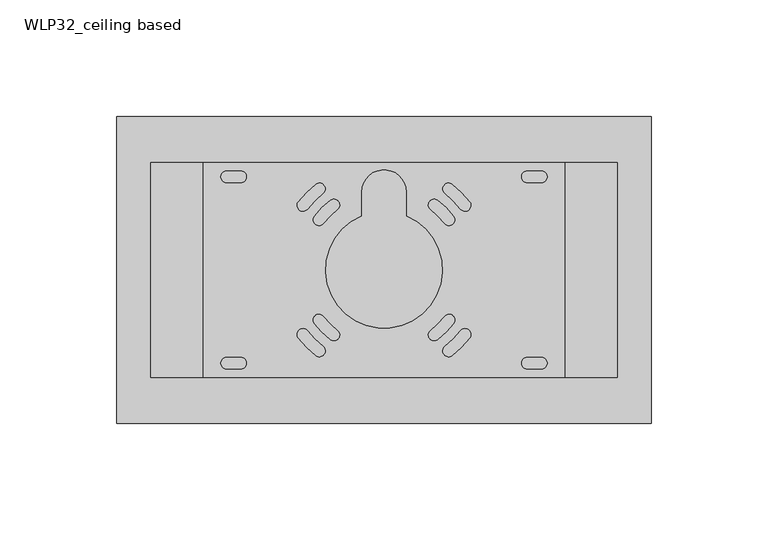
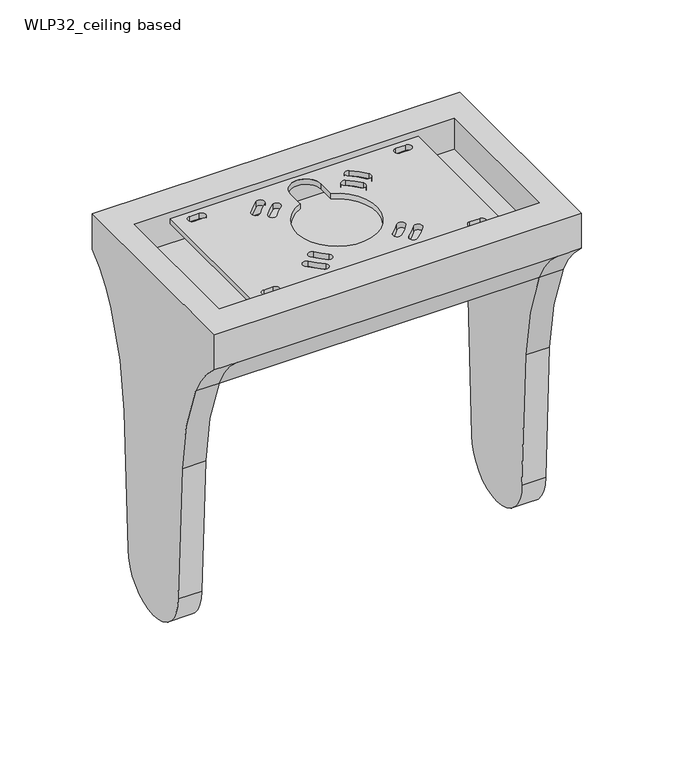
"""IFC4 building model written with IfcOpenShell, lengths in millimetres: light fixture geometry, WLP32_ceiling based : WLP32-80W-T40."""

from ifc_helpers import new_model, si_unit, point, frame, frame_2d, origin, origin_2d, place, context, project, spatial, polyline, circle_curve, trimmed, segment, composite_curve, outline, extrude, source, transform, mapped, element, save
from ifc_brep_helpers import plane_surface, cylinder_surface, revolved_surface, advanced_brep


def wlp32_ceiling_based_78ae828d(model_context):
    return source(origin(), model_context, "Body", "SolidModel", [
        extrude(outline(polyline([(-77.4999981, -46.0837738), (-77.4999981, 46.0837738), (77.4999252, 46.0837738), (77.4999252, -46.0837738), (-77.4999981, -46.0837738)]), holes=[composite_curve([segment(trimmed(circle_curve(origin_2d(), 25.0000305), [point((-9.5000019, 23.1246944))], [point((9.5000019, 23.1246944))], True, "CARTESIAN"), True, "CONTINUOUS"), segment(polyline([(9.5000019, 23.1246944), (9.5000019, 33.4999695)]), True, "CONTINUOUS"), segment(trimmed(circle_curve(frame_2d((0.0, 33.4999695)), 9.5000019), [point((9.5000019, 33.4999695))], [point((-9.5000019, 33.4999695))], True, "CARTESIAN"), True, "CONTINUOUS"), segment(polyline([(-9.5000019, 33.4999695), (-9.5000019, 23.1246944)]), True, "CONTINUOUS")], self_intersect=False), composite_curve([segment(polyline([(67.5000019, -37.5417709), (61.4419666, -37.5417709)]), True, "CONTINUOUS"), segment(trimmed(circle_curve(frame_2d((61.4419666, -40.0208969)), 2.479126), [point((61.4419666, -37.5417709))], [point((61.4419666, -42.5000229))], True, "CARTESIAN"), True, "CONTINUOUS"), segment(polyline([(61.4419666, -42.5000229), (67.5000019, -42.5000229)]), True, "CONTINUOUS"), segment(trimmed(circle_curve(frame_2d((67.5000019, -40.0208969)), 2.479126), [point((67.5000019, -42.5000229))], [point((67.5000019, -37.5417709))], True, "CARTESIAN"), True, "CONTINUOUS")], self_intersect=False), composite_curve([segment(trimmed(circle_curve(frame_2d((67.5000019, 40.0208969)), 2.479126), [point((67.5000019, 37.5417709))], [point((67.5000019, 42.5000229))], True, "CARTESIAN"), True, "CONTINUOUS"), segment(polyline([(67.5000019, 42.5000229), (61.4419666, 42.5000229)]), True, "CONTINUOUS"), segment(trimmed(circle_curve(frame_2d((61.4419666, 40.0208969)), 2.479126), [point((61.4419666, 42.5000229))], [point((61.4419666, 37.5417709))], True, "CARTESIAN"), True, "CONTINUOUS"), segment(polyline([(61.4419666, 37.5417709), (67.5000019, 37.5417709)]), True, "CONTINUOUS")], self_intersect=False), composite_curve([segment(trimmed(circle_curve(frame_2d((-67.5000019, -40.0208969)), 2.479126), [point((-67.5000019, -37.5417709))], [point((-67.5000019, -42.5000229))], True, "CARTESIAN"), True, "CONTINUOUS"), segment(polyline([(-67.5000019, -42.5000229), (-61.4419666, -42.5000229)]), True, "CONTINUOUS"), segment(trimmed(circle_curve(frame_2d((-61.4419666, -40.0208969)), 2.479126), [point((-61.4419666, -42.5000229))], [point((-61.4419666, -37.5417709))], True, "CARTESIAN"), True, "CONTINUOUS"), segment(polyline([(-61.4419666, -37.5417709), (-67.5000019, -37.5417709)]), True, "CONTINUOUS")], self_intersect=False), composite_curve([segment(polyline([(-67.5000019, 37.5417709), (-61.4419666, 37.5417709)]), True, "CONTINUOUS"), segment(trimmed(circle_curve(frame_2d((-61.4419666, 40.0208969)), 2.479126), [point((-61.4419666, 37.5417709))], [point((-61.4419666, 42.5000229))], True, "CARTESIAN"), True, "CONTINUOUS"), segment(polyline([(-61.4419666, 42.5000229), (-67.5000019, 42.5000229)]), True, "CONTINUOUS"), segment(trimmed(circle_curve(frame_2d((-67.5000019, 40.0208969)), 2.479126), [point((-67.5000019, 42.5000229))], [point((-67.5000019, 37.5417709))], True, "CARTESIAN"), True, "CONTINUOUS")], self_intersect=False), composite_curve([segment(trimmed(circle_curve(origin_2d(), 37.6976615), [point((22.7380905, -30.068138))], [point((29.960342, -22.8799386))], True, "CARTESIAN"), True, "CONTINUOUS"), segment(trimmed(circle_curve(frame_2d((27.8943475, -21.5093333)), 2.4792927), [point((29.960342, -22.8799386))], [point((26.028187, -19.8770535))], True, "CARTESIAN"), True, "CONTINUOUS"), segment(trimmed(circle_curve(origin_2d(), 32.7500194), [point((26.028187, -19.8770535))], [point((19.7538223, -26.1218353))], False, "CARTESIAN"), True, "CONTINUOUS"), segment(trimmed(circle_curve(frame_2d((21.5243387, -27.8844687)), 2.4983204), [point((19.7538223, -26.1218353))], [point((22.7380905, -30.068138))], True, "CARTESIAN"), True, "CONTINUOUS")], self_intersect=False), composite_curve([segment(trimmed(circle_curve(frame_2d((27.7326932, -34.750843)), 2.5303312), [point((25.9620034, -32.9432939))], [point((29.0762661, -36.8949949))], True, "CARTESIAN"), True, "CONTINUOUS"), segment(trimmed(circle_curve(origin_2d(), 46.9752052), [point((29.0762661, -36.8949949))], [point((36.8818491, -29.0929391))], True, "CARTESIAN"), True, "CONTINUOUS"), segment(trimmed(circle_curve(frame_2d((34.7568286, -27.724914)), 2.5272921), [point((36.8818491, -29.0929391))], [point((32.9315562, -25.9768906))], True, "CARTESIAN"), True, "CONTINUOUS"), segment(trimmed(circle_curve(origin_2d(), 41.9438462), [point((32.9315562, -25.9768906))], [point((25.9620034, -32.9432939))], False, "CARTESIAN"), True, "CONTINUOUS")], self_intersect=False), composite_curve([segment(trimmed(circle_curve(frame_2d((-21.5243387, -27.8844687)), 2.4983204), [point((-22.7380905, -30.068138))], [point((-19.7538223, -26.1218353))], True, "CARTESIAN"), True, "CONTINUOUS"), segment(trimmed(circle_curve(origin_2d(), 32.7500194), [point((-19.7538223, -26.1218353))], [point((-26.028187, -19.8770535))], False, "CARTESIAN"), True, "CONTINUOUS"), segment(trimmed(circle_curve(frame_2d((-27.8943475, -21.5093333)), 2.4792927), [point((-26.028187, -19.8770535))], [point((-29.960342, -22.8799386))], True, "CARTESIAN"), True, "CONTINUOUS"), segment(trimmed(circle_curve(origin_2d(), 37.6976615), [point((-29.960342, -22.8799386))], [point((-22.7380905, -30.068138))], True, "CARTESIAN"), True, "CONTINUOUS")], self_intersect=False), composite_curve([segment(trimmed(circle_curve(origin_2d(), 41.9438462), [point((-25.9620034, -32.9432939))], [point((-32.9315562, -25.9768906))], False, "CARTESIAN"), True, "CONTINUOUS"), segment(trimmed(circle_curve(frame_2d((-34.7568286, -27.724914)), 2.5272921), [point((-32.9315562, -25.9768906))], [point((-36.8818491, -29.0929391))], True, "CARTESIAN"), True, "CONTINUOUS"), segment(trimmed(circle_curve(origin_2d(), 46.9752052), [point((-36.8818491, -29.0929391))], [point((-29.0762661, -36.8949949))], True, "CARTESIAN"), True, "CONTINUOUS"), segment(trimmed(circle_curve(frame_2d((-27.7326932, -34.750843)), 2.5303312), [point((-29.0762661, -36.8949949))], [point((-25.9620034, -32.9432939))], True, "CARTESIAN"), True, "CONTINUOUS")], self_intersect=False), composite_curve([segment(trimmed(circle_curve(frame_2d((21.5243387, 27.8844687)), 2.4983204), [point((22.7380905, 30.068138))], [point((19.7538223, 26.1218353))], True, "CARTESIAN"), True, "CONTINUOUS"), segment(trimmed(circle_curve(origin_2d(), 32.7500194), [point((19.7538223, 26.1218353))], [point((26.028187, 19.8770535))], False, "CARTESIAN"), True, "CONTINUOUS"), segment(trimmed(circle_curve(frame_2d((27.8943475, 21.5093333)), 2.4792927), [point((26.028187, 19.8770535))], [point((29.960342, 22.8799386))], True, "CARTESIAN"), True, "CONTINUOUS"), segment(trimmed(circle_curve(origin_2d(), 37.6976615), [point((29.960342, 22.8799386))], [point((22.7380905, 30.068138))], True, "CARTESIAN"), True, "CONTINUOUS")], self_intersect=False), composite_curve([segment(trimmed(circle_curve(origin_2d(), 41.9438462), [point((25.9620034, 32.9432939))], [point((32.9315562, 25.9768906))], False, "CARTESIAN"), True, "CONTINUOUS"), segment(trimmed(circle_curve(frame_2d((34.7568286, 27.724914)), 2.5272921), [point((32.9315562, 25.9768906))], [point((36.8818491, 29.0929391))], True, "CARTESIAN"), True, "CONTINUOUS"), segment(trimmed(circle_curve(origin_2d(), 46.9752052), [point((36.8818491, 29.0929391))], [point((29.0762661, 36.8949949))], True, "CARTESIAN"), True, "CONTINUOUS"), segment(trimmed(circle_curve(frame_2d((27.7326932, 34.750843)), 2.5303312), [point((29.0762661, 36.8949949))], [point((25.9620034, 32.9432939))], True, "CARTESIAN"), True, "CONTINUOUS")], self_intersect=False), composite_curve([segment(trimmed(circle_curve(origin_2d(), 37.6976615), [point((-22.7380905, 30.068138))], [point((-29.960342, 22.8799386))], True, "CARTESIAN"), True, "CONTINUOUS"), segment(trimmed(circle_curve(frame_2d((-27.8943475, 21.5093333)), 2.4792927), [point((-29.960342, 22.8799386))], [point((-26.028187, 19.8770535))], True, "CARTESIAN"), True, "CONTINUOUS"), segment(trimmed(circle_curve(origin_2d(), 32.7500194), [point((-26.028187, 19.8770535))], [point((-19.7538223, 26.1218353))], False, "CARTESIAN"), True, "CONTINUOUS"), segment(trimmed(circle_curve(frame_2d((-21.5243387, 27.8844687)), 2.4983204), [point((-19.7538223, 26.1218353))], [point((-22.7380905, 30.068138))], True, "CARTESIAN"), True, "CONTINUOUS")], self_intersect=False), composite_curve([segment(trimmed(circle_curve(frame_2d((-27.7326932, 34.750843)), 2.5303312), [point((-25.9620034, 32.9432939))], [point((-29.0762661, 36.8949949))], True, "CARTESIAN"), True, "CONTINUOUS"), segment(trimmed(circle_curve(origin_2d(), 46.9752052), [point((-29.0762661, 36.8949949))], [point((-36.8818491, 29.0929391))], True, "CARTESIAN"), True, "CONTINUOUS"), segment(trimmed(circle_curve(frame_2d((-34.7568286, 27.724914)), 2.5272921), [point((-36.8818491, 29.0929391))], [point((-32.9315562, 25.9768906))], True, "CARTESIAN"), True, "CONTINUOUS"), segment(trimmed(circle_curve(origin_2d(), 41.9438462), [point((-32.9315562, 25.9768906))], [point((-25.9620034, 32.9432939))], False, "CARTESIAN"), True, "CONTINUOUS")], self_intersect=False)]), frame((0.0, 0.0, 697.3162311), z_axis=(0.0, 0.0, 1.0), x_axis=(1.0, 0.0, 0.0)), (0.0, 0.0, 1.0), 3.4449947),
        advanced_brep(
        [(-114.696875, 65.88125, 704.85), (-114.696875, -65.88125, 704.85), (114.696875, -65.88125, 704.85), (114.696875, 65.88125, 704.85), (-100.0000057, 46.0837738, 704.85), (100.0000057, 46.0837738, 704.85), (100.0000057, -46.0837738, 704.85), (-100.0000057, -46.0837738, 704.85), (-100.0000057, -65.88125, 681.7014288), (100.0000057, -65.88125, 681.7014288), (114.696875, -65.88125, 681.7014288), (-114.696875, -65.88125, 681.7014288), (-100.0000057, -46.0837738, 655.8500072), (100.0000057, -46.0837738, 655.8500072), (100.0000057, 46.0837738, 655.8500072), (-100.0000057, 46.0837738, 655.8500072), (-100.0000057, 65.88125, 681.7014288), (100.0000057, 65.88125, 681.7014288), (-114.696875, 65.88125, 681.7014288), (114.696875, 65.88125, 681.7014288), (-100.0000057, -46.0837738, 684.3500188), (100.0000057, -46.0837738, 684.3500188), (100.0000057, 46.0837738, 684.3500188), (-100.0000057, 46.0837738, 684.3500188), (114.696875, -46.0837738, 655.8500072), (114.696875, -31.1662216, 595.440839), (114.696875, -27.1380505, 506.9770202), (114.696875, 0.0, 479.8389697), (114.696875, 27.1380505, 506.9770202), (114.696875, 31.1662216, 595.440839), (114.696875, 46.0837738, 655.8500072), (100.0000057, 31.1662216, 595.440839), (100.0000057, 27.1380505, 506.9770202), (100.0000057, 0.0, 479.8389697), (100.0000057, -27.1380505, 506.9770202), (100.0000057, -31.1662216, 595.440839), (-100.0000057, -31.1662216, 595.440839), (-100.0000057, -27.1380505, 506.9770202), (-100.0000057, 0.0, 479.8389697), (-100.0000057, 27.1380505, 506.9770202), (-100.0000057, 31.1662216, 595.440839), (-114.696875, 46.0837738, 655.8500072), (-114.696875, 31.1662216, 595.440839), (-114.696875, 27.1380505, 506.9770202), (-114.696875, 0.0, 479.8389697), (-114.696875, -27.1380505, 506.9770202), (-114.696875, -31.1662216, 595.440839), (-114.696875, -46.0837738, 655.8500072)],
        [
            (0, 1),
            (1, 2),
            (2, 3),
            (3, 0),
            (4, 5),
            (5, 6),
            (6, 7),
            (7, 4),
            (8, 9),
            (9, 10),
            (10, 2),
            (1, 11),
            (11, 8),
            (8, 12, circle_curve(frame((-100.0000057, -111.2522031, 626.4492103), z_axis=(-1.0, 0.0, 0.0), x_axis=(0.0, 0.0, 1.0)), 71.4935734)),
            (12, 13),
            (13, 9, circle_curve(frame((100.0000057, -111.2522031, 626.4492103), z_axis=(1.0, 0.0, 0.0), x_axis=(0.0, 0.0, 1.0)), 71.4935734)),
            (14, 15),
            (15, 16, circle_curve(frame((-100.0000057, 111.2522031, 626.4492103), z_axis=(-1.0, 0.0, 0.0), x_axis=(0.0, 0.0, 1.0)), 71.4935734)),
            (16, 17),
            (17, 14, circle_curve(frame((100.0000057, 111.2522031, 626.4492103), z_axis=(1.0, 0.0, 0.0), x_axis=(0.0, 0.0, 1.0)), 71.4935734)),
            (16, 18),
            (18, 0),
            (3, 19),
            (19, 17),
            (12, 15),
            (14, 13),
            (20, 21),
            (21, 22),
            (22, 23),
            (23, 20),
            (22, 5),
            (4, 23),
            (20, 7),
            (6, 21),
            (10, 24, circle_curve(frame((114.696875, -111.2522031, 626.4492103), z_axis=(-1.0, 0.0, 0.0), x_axis=(0.0, 0.0, 1.0)), 71.4935734)),
            (24, 25, circle_curve(frame((114.696875, -203.0134777, 585.0510265), z_axis=(-1.0, 0.0, 0.0), x_axis=(0.0, 0.0, 1.0)), 172.1610514)),
            (25, 26, circle_curve(frame((114.696875, -3000.9421601, 415.8894412), z_axis=(-1.0, 0.0, 0.0), x_axis=(0.0, 0.0, 1.0)), 2975.1987882)),
            (26, 27, circle_curve(frame((114.696875, 0.0, 506.9770202), z_axis=(1.0, 0.0, 0.0), x_axis=(0.0, 0.0, 1.0)), 27.1380505)),
            (27, 28, circle_curve(frame((114.696875, 0.0, 506.9770202), z_axis=(1.0, 0.0, 0.0), x_axis=(0.0, 0.0, 1.0)), 27.1380505)),
            (28, 29, circle_curve(frame((114.696875, 3000.9421601, 415.8894412), z_axis=(-1.0, 0.0, 0.0), x_axis=(0.0, 0.0, 1.0)), 2975.1987882)),
            (29, 30, circle_curve(frame((114.696875, 203.0134777, 585.0510265), z_axis=(-1.0, 0.0, 0.0), x_axis=(0.0, 0.0, 1.0)), 172.1610514)),
            (30, 19, circle_curve(frame((114.696875, 111.2522031, 626.4492103), z_axis=(-1.0, 0.0, 0.0), x_axis=(0.0, 0.0, 1.0)), 71.4935734)),
            (14, 31, circle_curve(frame((100.0000057, 203.0134777, 585.0510265), z_axis=(1.0, 0.0, 0.0), x_axis=(0.0, 0.0, 1.0)), 172.1610514)),
            (31, 32, circle_curve(frame((100.0000057, 3000.9421601, 415.8894412), z_axis=(1.0, 0.0, 0.0), x_axis=(0.0, 0.0, 1.0)), 2975.1987882)),
            (32, 33, circle_curve(frame((100.0000057, 0.0, 506.9770202), z_axis=(-1.0, 0.0, 0.0), x_axis=(0.0, 0.0, 1.0)), 27.1380505)),
            (33, 34, circle_curve(frame((100.0000057, 0.0, 506.9770202), z_axis=(-1.0, 0.0, 0.0), x_axis=(0.0, 0.0, 1.0)), 27.1380505)),
            (34, 35, circle_curve(frame((100.0000057, -3000.9421601, 415.8894412), z_axis=(1.0, 0.0, 0.0), x_axis=(0.0, 0.0, 1.0)), 2975.1987882)),
            (35, 13, circle_curve(frame((100.0000057, -203.0134777, 585.0510265), z_axis=(1.0, 0.0, 0.0), x_axis=(0.0, 0.0, 1.0)), 172.1610514)),
            (13, 24),
            (35, 25),
            (29, 31),
            (14, 30),
            (12, 36, circle_curve(frame((-100.0000057, -203.0134777, 585.0510265), z_axis=(-1.0, 0.0, 0.0), x_axis=(0.0, 0.0, 1.0)), 172.1610514)),
            (36, 37, circle_curve(frame((-100.0000057, -3000.9421601, 415.8894412), z_axis=(-1.0, 0.0, 0.0), x_axis=(0.0, 0.0, 1.0)), 2975.1987882)),
            (37, 38, circle_curve(frame((-100.0000057, 0.0, 506.9770202), z_axis=(1.0, 0.0, 0.0), x_axis=(0.0, 0.0, 1.0)), 27.1380505)),
            (38, 39, circle_curve(frame((-100.0000057, 0.0, 506.9770202), z_axis=(1.0, 0.0, 0.0), x_axis=(0.0, 0.0, 1.0)), 27.1380505)),
            (39, 40, circle_curve(frame((-100.0000057, 3000.9421601, 415.8894412), z_axis=(-1.0, 0.0, 0.0), x_axis=(0.0, 0.0, 1.0)), 2975.1987882)),
            (40, 15, circle_curve(frame((-100.0000057, 203.0134777, 585.0510265), z_axis=(-1.0, 0.0, 0.0), x_axis=(0.0, 0.0, 1.0)), 172.1610514)),
            (18, 41, circle_curve(frame((-114.696875, 111.2522031, 626.4492103), z_axis=(1.0, 0.0, 0.0), x_axis=(0.0, 0.0, 1.0)), 71.4935734)),
            (41, 42, circle_curve(frame((-114.696875, 203.0134777, 585.0510265), z_axis=(1.0, 0.0, 0.0), x_axis=(0.0, 0.0, 1.0)), 172.1610514)),
            (42, 43, circle_curve(frame((-114.696875, 3000.9421601, 415.8894412), z_axis=(1.0, 0.0, 0.0), x_axis=(0.0, 0.0, 1.0)), 2975.1987882)),
            (43, 44, circle_curve(frame((-114.696875, 0.0, 506.9770202), z_axis=(-1.0, 0.0, 0.0), x_axis=(0.0, 0.0, 1.0)), 27.1380505)),
            (44, 45, circle_curve(frame((-114.696875, 0.0, 506.9770202), z_axis=(-1.0, 0.0, 0.0), x_axis=(0.0, 0.0, 1.0)), 27.1380505)),
            (45, 46, circle_curve(frame((-114.696875, -3000.9421601, 415.8894412), z_axis=(1.0, 0.0, 0.0), x_axis=(0.0, 0.0, 1.0)), 2975.1987882)),
            (46, 47, circle_curve(frame((-114.696875, -203.0134777, 585.0510265), z_axis=(1.0, 0.0, 0.0), x_axis=(0.0, 0.0, 1.0)), 172.1610514)),
            (47, 11, circle_curve(frame((-114.696875, -111.2522031, 626.4492103), z_axis=(1.0, 0.0, 0.0), x_axis=(0.0, 0.0, 1.0)), 71.4935734)),
            (47, 12),
            (46, 36),
            (40, 42),
            (41, 15),
            (45, 37),
            (44, 38),
            (43, 39),
            (34, 26),
            (33, 27),
            (32, 28),
        ],
        [
            plane_surface(frame((100.0000057, 65.88125, 704.85), z_axis=(0.0, 0.0, 1.0), x_axis=(-1.0, 0.0, 0.0))),
            plane_surface(frame((100.0000057, -65.88125, 704.85), z_axis=(0.0, -1.0, 0.0), x_axis=(-1.0, 0.0, 0.0))),
            revolved_surface(polyline([(-100.0000057, -111.2522031, 697.9427837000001), (100.0000057, -111.2522031, 697.9427837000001)]), (-100.0000057, -111.2522031, 626.4492103), (-1.0, 0.0, 0.0)),
            revolved_surface(polyline([(-100.0000057, 111.2522031, 697.9427837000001), (100.0000057, 111.2522031, 697.9427837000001)]), (-100.0000057, 111.2522031, 626.4492103), (-1.0, 0.0, 0.0)),
            plane_surface(frame((100.0000057, 65.88125, 681.7014288), z_axis=(0.0, 1.0, 0.0), x_axis=(-1.0, 0.0, 0.0))),
            plane_surface(frame((100.0000057, -46.0837738, 655.8500072), z_axis=(0.0, 0.0, -1.0), x_axis=(-1.0, 0.0, 0.0))),
            plane_surface(frame((-100.0000057, -46.0837738, 684.3500188), z_axis=(0.0, 0.0, 1.0), x_axis=(0.0, 1.0, 0.0))),
            plane_surface(frame((-100.0000057, 46.0837738, 684.3500188), z_axis=(0.0, -1.0, 0.0), x_axis=(0.0, 0.0, 1.0))),
            plane_surface(frame((100.0000057, -46.0837738, 684.3500188), z_axis=(0.0, 1.0, 0.0), x_axis=(0.0, 0.0, 1.0))),
            plane_surface(frame((114.696875, -65.88125, 704.85), z_axis=(1.0, 0.0, 0.0), x_axis=(0.0, -1.0, 0.0))),
            plane_surface(frame((100.0000057, -65.88125, 704.85), z_axis=(-1.0, 0.0, 0.0), x_axis=(0.0, 1.0, 0.0))),
            revolved_surface(polyline([(100.0000057, -111.2522031, 697.9427837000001), (114.696875, -111.2522031, 697.9427837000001)]), (100.0000057, -111.2522031, 626.4492103), (-1.0, 0.0, 0.0)),
            revolved_surface(polyline([(100.0000057, -203.0134777, 757.2120779), (114.696875, -203.0134777, 757.2120779)]), (100.0000057, -203.0134777, 585.0510265), (-1.0, 0.0, 0.0)),
            revolved_surface(polyline([(100.0000057, 203.0134777, 757.2120779), (114.696875, 203.0134777, 757.2120779)]), (100.0000057, 203.0134777, 585.0510265), (-1.0, 0.0, 0.0)),
            revolved_surface(polyline([(100.0000057, 111.2522031, 697.9427837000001), (114.696875, 111.2522031, 697.9427837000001)]), (100.0000057, 111.2522031, 626.4492103), (-1.0, 0.0, 0.0)),
            plane_surface(frame((-100.0000057, -65.88125, 704.85), z_axis=(1.0, 0.0, 0.0), x_axis=(0.0, -1.0, 0.0))),
            plane_surface(frame((-114.696875, -65.88125, 704.85), z_axis=(-1.0, 0.0, 0.0), x_axis=(0.0, 1.0, 0.0))),
            revolved_surface(polyline([(-114.696875, -111.2522031, 697.9427837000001), (-100.0000057, -111.2522031, 697.9427837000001)]), (-114.696875, -111.2522031, 626.4492103), (-1.0, 0.0, 0.0)),
            revolved_surface(polyline([(-114.696875, -203.0134777, 757.2120779), (-100.0000057, -203.0134777, 757.2120779)]), (-114.696875, -203.0134777, 585.0510265), (-1.0, 0.0, 0.0)),
            revolved_surface(polyline([(-114.696875, 203.0134777, 757.2120779), (-100.0000057, 203.0134777, 757.2120779)]), (-114.696875, 203.0134777, 585.0510265), (-1.0, 0.0, 0.0)),
            revolved_surface(polyline([(-114.696875, 111.2522031, 697.9427837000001), (-100.0000057, 111.2522031, 697.9427837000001)]), (-114.696875, 111.2522031, 626.4492103), (-1.0, 0.0, 0.0)),
            revolved_surface(polyline([(-114.696875, -3000.9421601, 3391.0882294), (-100.0000057, -3000.9421601, 3391.0882294)]), (-114.696875, -3000.9421601, 415.8894412), (-1.0, 0.0, 0.0)),
            cylinder_surface(frame((-114.696875, 0.0, 506.9770202), z_axis=(1.0, 0.0, 0.0), x_axis=(0.0, 0.0, 1.0)), 27.1380505),
            revolved_surface(polyline([(-114.696875, 3000.9421601, 3391.0882294), (-100.0000057, 3000.9421601, 3391.0882294)]), (-114.696875, 3000.9421601, 415.8894412), (-1.0, 0.0, 0.0)),
            revolved_surface(polyline([(100.0000057, -3000.9421601, 3391.0882294), (114.696875, -3000.9421601, 3391.0882294)]), (100.0000057, -3000.9421601, 415.8894412), (-1.0, 0.0, 0.0)),
            cylinder_surface(frame((100.0000057, 0.0, 506.9770202), z_axis=(1.0, 0.0, 0.0), x_axis=(0.0, 0.0, 1.0)), 27.1380505),
            revolved_surface(polyline([(100.0000057, 3000.9421601, 3391.0882294), (114.696875, 3000.9421601, 3391.0882294)]), (100.0000057, 3000.9421601, 415.8894412), (-1.0, 0.0, 0.0)),
        ],
        [
            (0, [[1, 2, 3, 4], [5, 6, 7, 8]]),
            (1, [[9, 10, 11, -2, 12, 13]]),
            (2, [[-9, 14, 15, 16]]),
            (3, [[17, 18, 19, 20]]),
            (4, [[-19, 21, 22, -4, 23, 24]]),
            (5, [[-15, 25, -17, 26]]),
            (6, [[27, 28, 29, 30]]),
            (7, [[-29, 31, -5, 32]]),
            (8, [[-27, 33, -7, 34]]),
            (9, [[-3, -11, 35, 36, 37, 38, 39, 40, 41, 42, -23]]),
            (10, [[-6, -31, -28, -34]]),
            (10, [[43, 44, 45, 46, 47, 48, -26]]),
            (11, [[-35, -10, -16, 49]]),
            (12, [[-36, -49, -48, 50]]),
            (13, [[-41, 51, -43, 52]]),
            (14, [[-42, -52, -20, -24]]),
            (15, [[-8, -33, -30, -32]]),
            (15, [[53, 54, 55, 56, 57, 58, -25]]),
            (16, [[-22, 59, 60, 61, 62, 63, 64, 65, 66, -12, -1]]),
            (17, [[-66, 67, -14, -13]]),
            (18, [[-53, -67, -65, 68]]),
            (19, [[-58, 69, -60, 70]]),
            (20, [[-59, -21, -18, -70]]),
            (21, [[-54, -68, -64, 71]]),
            (22, [[-55, -71, -63, 72]]),
            (22, [[-56, -72, -62, 73]]),
            (23, [[-57, -73, -61, -69]]),
            (24, [[-37, -50, -47, 74]]),
            (25, [[-38, -74, -46, 75]]),
            (25, [[-39, -75, -45, 76]]),
            (26, [[-40, -76, -44, -51]]),
        ],
    ),
    ])


if __name__ == "__main__":
    model = new_model("IFC4")
    model_context = context("Model", 3, world=origin())
    ifc_project = project(units=[si_unit("LENGTHUNIT", "METRE", prefix="MILLI")], contexts=[model_context])
    site = spatial("IfcSite", under=ifc_project)
    building = spatial("IfcBuilding", under=site)
    placement = place(None, origin())
    wlp32_ceiling_based_shape = wlp32_ceiling_based_78ae828d(model_context)
    element("IfcLightFixture", 1, ObjectType="WLP32_ceiling based : WLP32-80W-T40", at=placement, inside=building, context=model_context, shape_type="MappedRepresentation", body=[
        mapped(wlp32_ceiling_based_shape, transform((0.0, 0.0, 0.0), x_axis=(1.0, 0.0, 0.0), y_axis=(0.0, 1.0, 0.0), z_axis=(0.0, 0.0, 1.0))),
    ])
    save(model, "model.ifc")
